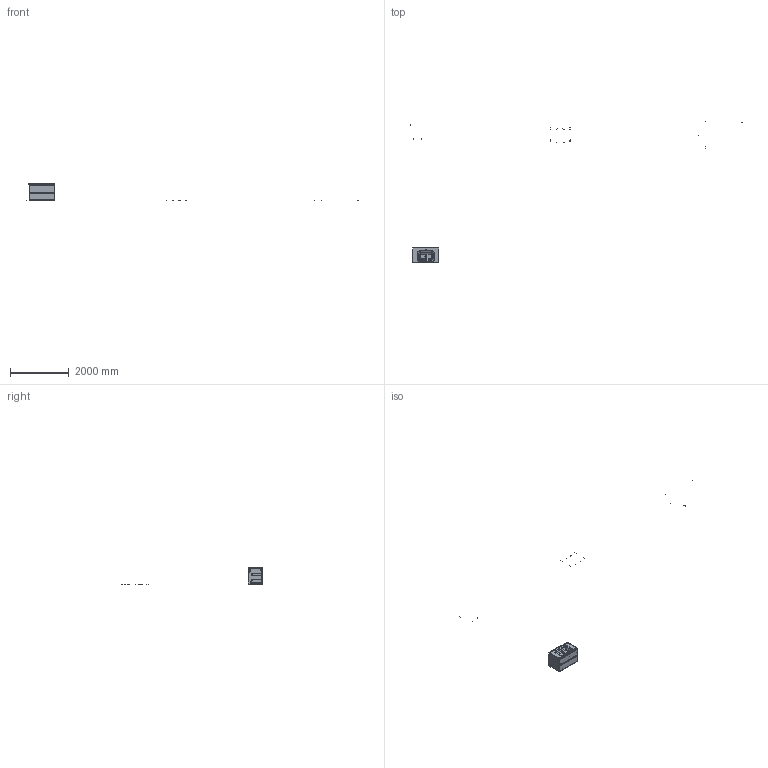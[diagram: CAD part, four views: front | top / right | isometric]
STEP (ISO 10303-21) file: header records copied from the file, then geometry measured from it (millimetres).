
FILE_DESCRIPTION (( 'STEP AP214' ), '1' );
FILE_NAME ('Boffi-750.STEP', '2020-06-24T21:12:35', ( '' ), ( '' ), 'SwSTEP 2.0', 'SolidWorks 2020', '' );
FILE_SCHEMA (( 'AUTOMOTIVE_DESIGN' ));
Length unit declared in the file: millimetre
Products named in the file (2): Boffi-750
Assembly tree (1 placements, depth 2):
  Boffi-750
    Boffi-750
Bounding box: 11328.76 x 4831.91 x 552 mm (x, y, z)
Surface area: 7606773 mm2 (no closed solid volume)
Topology: 0 solids, 56 shells, 429 faces, 1008 edges, 674 vertices
Faces by surface type: plane 310, cylinder 103, bspline 14, cone 2
Entity records: 15071 total; most frequent: CARTESIAN_POINT 4388, DIRECTION 2060, ORIENTED_EDGE 1970, EDGE_CURVE 1008, VECTOR 750, LINE 750, VERTEX_POINT 674, AXIS2_PLACEMENT_3D 655
